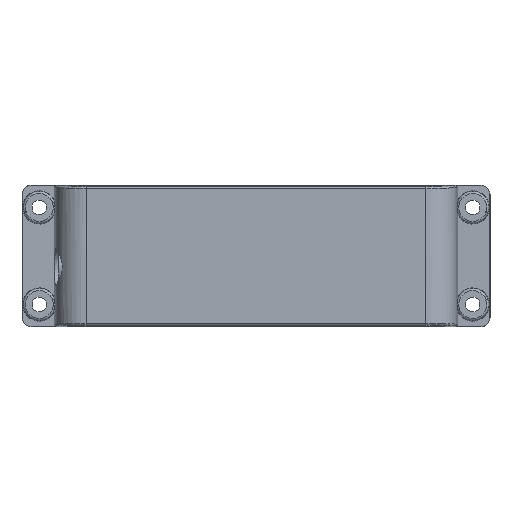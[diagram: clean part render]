
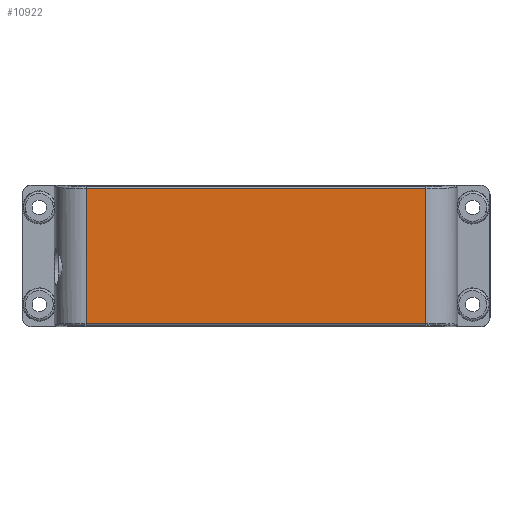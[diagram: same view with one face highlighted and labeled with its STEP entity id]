
A CAD part, top view. The second image highlights one B-rep face of the part: STEP entity #10922.
In plain terms, the highlighted planar face has unit normal (0, 0, 1).
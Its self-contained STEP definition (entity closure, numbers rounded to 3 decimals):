
#1332=CARTESIAN_POINT('',(-42.01,-16.742,
9.2));
#5596=DIRECTION('',(1.,0.,0.));
#5597=VECTOR('',#5596,84.019);
#5598=CARTESIAN_POINT('',(-42.01,16.742,9.2));
#5599=LINE('',#5598,#5597);
#5603=DIRECTION('',(0.,1.,0.));
#5604=VECTOR('',#5603,33.484);
#5605=CARTESIAN_POINT('',(42.01,-16.742,9.2));
#5606=LINE('',#5605,#5604);
#5610=DIRECTION('',(-1.,0.,0.));
#5611=VECTOR('',#5610,84.019);
#5612=CARTESIAN_POINT('',(42.01,-16.742,9.2));
#5613=LINE('',#5612,#5611);
#5617=DIRECTION('',(0.,1.,0.));
#5618=VECTOR('',#5617,33.484);
#5619=CARTESIAN_POINT('',(-42.01,-16.742,
9.2));
#5620=LINE('',#5619,#5618);
#5632=CARTESIAN_POINT('',(42.01,16.742,9.2));
#6509=VERTEX_POINT('',#5632);
#6513=CARTESIAN_POINT('',(-42.01,16.742,9.2));
#6514=VERTEX_POINT('',#6513);
#6519=VERTEX_POINT('',#1332);
#6523=CARTESIAN_POINT('',(42.01,-16.742,9.2));
#6524=VERTEX_POINT('',#6523);
#10909=CARTESIAN_POINT('',(-42.01,0.,9.2));
#10910=DIRECTION('',(0.,0.,1.));
#10911=DIRECTION('',(1.,0.,0.));
#10912=AXIS2_PLACEMENT_3D('',#10909,#10910,#10911);
#10913=PLANE('',#10912);
#10915=ORIENTED_EDGE('',*,*,#10914,.T.);
#10917=ORIENTED_EDGE('',*,*,#10916,.F.);
#10918=ORIENTED_EDGE('',*,*,#10903,.T.);
#10919=ORIENTED_EDGE('',*,*,#7463,.T.);
#10920=EDGE_LOOP('',(#10915,#10917,#10918,#10919));
#10921=FACE_OUTER_BOUND('',#10920,.F.);
#7463=EDGE_CURVE('',#6519,#6514,#5620,.T.);
#10903=EDGE_CURVE('',#6524,#6519,#5613,.T.);
#10914=EDGE_CURVE('',#6514,#6509,#5599,.T.);
#10916=EDGE_CURVE('',#6524,#6509,#5606,.T.);
#10922=ADVANCED_FACE('',(#10921),#10913,.T.);
